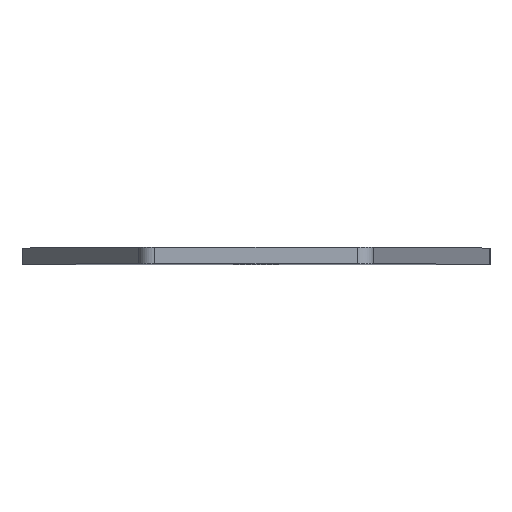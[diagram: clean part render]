
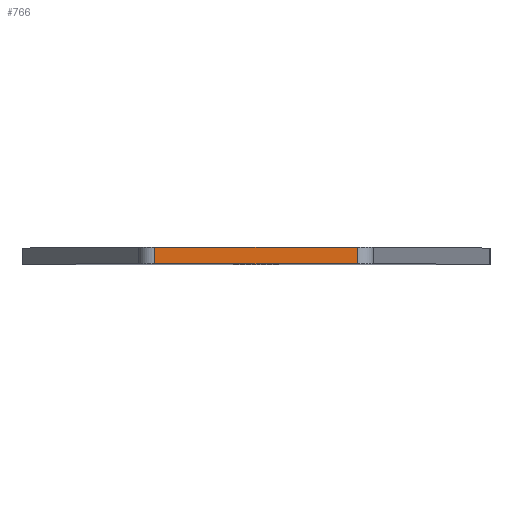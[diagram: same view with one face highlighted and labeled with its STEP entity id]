
A CAD part, top view. The second image highlights one B-rep face of the part: STEP entity #766.
In plain terms, the highlighted planar face has unit normal (0, 0, 1).
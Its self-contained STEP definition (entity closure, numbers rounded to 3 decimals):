
#5 = VECTOR ( 'NONE', #284, 1000. ) ;
#32 = CARTESIAN_POINT ( 'NONE',  ( -20.5, 0., 110.5 ) ) ;
#48 = ORIENTED_EDGE ( 'NONE', *, *, #617, .F. ) ;
#96 = CARTESIAN_POINT ( 'NONE',  ( 18.596, 0., 110.5 ) ) ;
#110 = AXIS2_PLACEMENT_3D ( 'NONE', #32, #791, #433 ) ;
#113 = CARTESIAN_POINT ( 'NONE',  ( -18.596, 0., 110.5 ) ) ;
#158 = VERTEX_POINT ( 'NONE', #385 ) ;
#159 = VERTEX_POINT ( 'NONE', #113 ) ;
#161 = VERTEX_POINT ( 'NONE', #685 ) ;
#191 = EDGE_LOOP ( 'NONE', ( #626, #48, #534, #731 ) ) ;
#209 = CARTESIAN_POINT ( 'NONE',  ( -20.5, 3., 110.5 ) ) ;
#225 = DIRECTION ( 'NONE',  ( 0., 1., 0. ) ) ;
#235 = DIRECTION ( 'NONE',  ( 0., 1., 0. ) ) ;
#284 = DIRECTION ( 'NONE',  ( 1., 0., 0. ) ) ;
#385 = CARTESIAN_POINT ( 'NONE',  ( 18.596, 3., 110.5 ) ) ;
#410 = FACE_OUTER_BOUND ( 'NONE', #191, .T. ) ;
#430 = VECTOR ( 'NONE', #235, 1000. ) ;
#433 = DIRECTION ( 'NONE',  ( 1., 0., 0. ) ) ;
#500 = EDGE_CURVE ( 'NONE', #669, #158, #786, .T. ) ;
#526 = VECTOR ( 'NONE', #225, 1000. ) ;
#530 = DIRECTION ( 'NONE',  ( 1., 0., 0. ) ) ;
#534 = ORIENTED_EDGE ( 'NONE', *, *, #681, .T. ) ;
#547 = VECTOR ( 'NONE', #530, 1000. ) ;
#576 = EDGE_CURVE ( 'NONE', #161, #158, #661, .T. ) ;
#590 = LINE ( 'NONE', #773, #547 ) ;
#616 = PLANE ( 'NONE',  #110 ) ;
#617 = EDGE_CURVE ( 'NONE', #159, #669, #718, .T. ) ;
#626 = ORIENTED_EDGE ( 'NONE', *, *, #500, .F. ) ;
#661 = LINE ( 'NONE', #96, #430 ) ;
#669 = VERTEX_POINT ( 'NONE', #722 ) ;
#681 = EDGE_CURVE ( 'NONE', #159, #161, #590, .T. ) ;
#685 = CARTESIAN_POINT ( 'NONE',  ( 18.596, 0., 110.5 ) ) ;
#718 = LINE ( 'NONE', #776, #526 ) ;
#722 = CARTESIAN_POINT ( 'NONE',  ( -18.596, 3., 110.5 ) ) ;
#731 = ORIENTED_EDGE ( 'NONE', *, *, #576, .T. ) ;
#766 = ADVANCED_FACE ( 'NONE', ( #410 ), #616, .T. ) ;
#773 = CARTESIAN_POINT ( 'NONE',  ( -20.5, 0., 110.5 ) ) ;
#776 = CARTESIAN_POINT ( 'NONE',  ( -18.596, 0., 110.5 ) ) ;
#786 = LINE ( 'NONE', #209, #5 ) ;
#791 = DIRECTION ( 'NONE',  ( 0., 0., 1. ) ) ;
